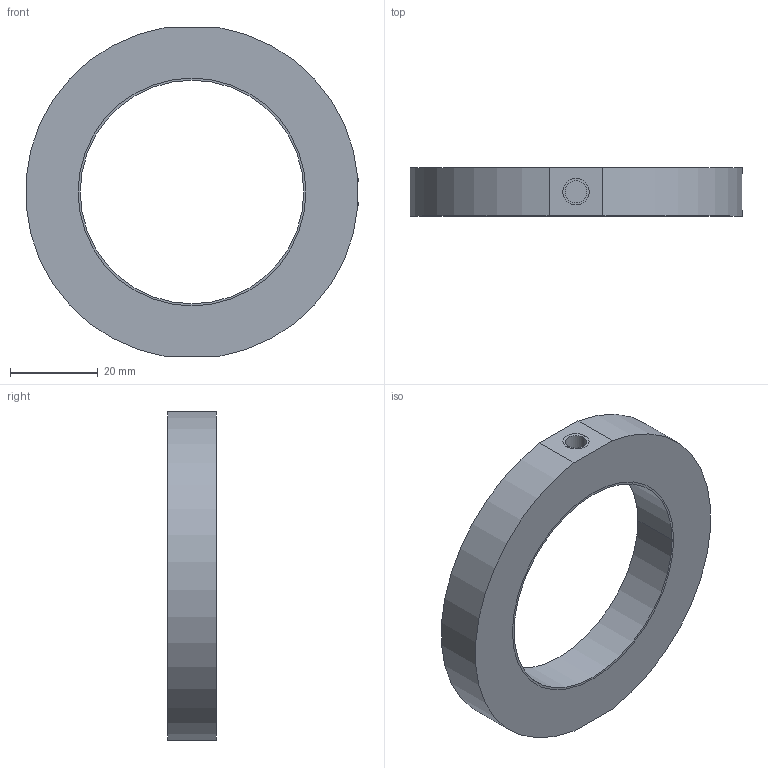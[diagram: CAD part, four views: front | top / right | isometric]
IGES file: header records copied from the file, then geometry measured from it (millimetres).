
Start section:  PTC IGES file: DH01.igs
Global section: file name: DH01.igs; native system: Pro/ENGINEER by Parametric Technology Corporation; preprocessor: 2006460; author: user; organization: Unknown; date: 20130723.141140; units: millimetre
Bounding box: 75.74 x 11 x 75.28 mm (x, y, z)
Surface area: 11849.9 mm2 (no closed solid volume)
Topology: 0 solids, 0 shells, 30 faces, 224 edges, 268 vertices
Faces by surface type: revolution 22, bspline 8
